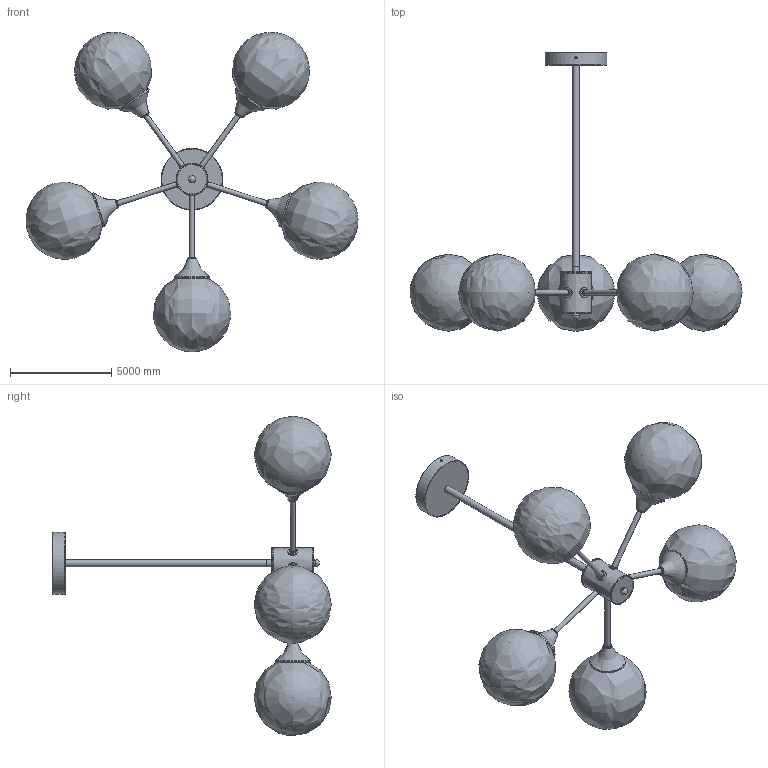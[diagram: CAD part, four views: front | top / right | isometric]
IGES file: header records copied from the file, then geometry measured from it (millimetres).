
Global section: file name: Lola Chandelier-5heads; native system: AutoCAD 2022 - 简体中文 (Simplified Chinese),62HAuto; preprocessor: desk Translation Framework DWG producer (atf_dwg_producer); organization: unknown; date: 20260602.141644; units: inch
Bounding box: 16370.3 x 13745.26 x 15753.23 mm (x, y, z)
Volume: 153700613058.2 mm3; surface area: 439366021.3 mm2
Topology: 44 solids, 49 shells, 434 faces, 983 edges, 692 vertices
Faces by surface type: bspline 434
